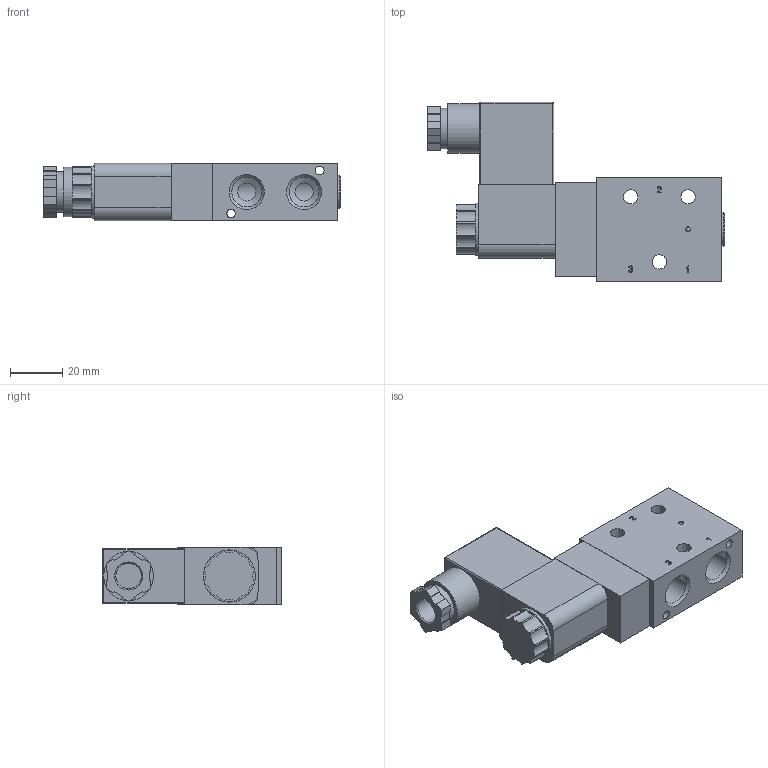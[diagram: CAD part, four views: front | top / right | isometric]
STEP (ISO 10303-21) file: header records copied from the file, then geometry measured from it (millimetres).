
FILE_DESCRIPTION(/* description */ ('Unknown','CAx-IF Rec.Pracs.---Representation and Presentation of Product Manufacturing Information (PMI)---4.0---2014-10-13','CAx-IF Rec.Pracs.---3D Tessellated Geometry---0.4---2014-09-14','2;1'),/* implementation_level */ '2;1');
FILE_NAME(/* name */ 'MH 310 701 G + MA 22 24 DC + ST 22',/* time_stamp */ '2019-05-22T10:04:47+02:00',/* author */ ('Unknown'),/* organization */ ('Unknown'),/* preprocessor_version */ 'ST-DEVELOPER v16.7',/* originating_system */ 'DEX',/* authorisation */ $);
FILE_SCHEMA (('AP242_MANAGED_MODEL_BASED_3D_ENGINEERING_MIM_LF { 1 0 10303 442 20130219 1 4 }'));
Length unit declared in the file: millimetre
Products named in the file (2): MH 310 701 G + MA 22 24 DC + ST 22
Assembly tree (1 placements, depth 2):
  MH 310 701 G + MA 22 24 DC + ST 22
    MH 310 701 G + MA 22 24 DC + ST 22
Bounding box: 114 x 68.7 x 22 mm (x, y, z)
Volume: 86188.3 mm3; surface area: 30445.4 mm2
Topology: 6 solids, 8 shells, 402 faces, 1028 edges, 677 vertices
Faces by surface type: plane 243, cylinder 86, bspline 43, cone 23, sphere 5, torus 2
Full cylindrical faces by diameter (mm): 1.5 x3, 1.6 x1, 1.85 x1, 2.459 x8, 2.5 x2, 3.236 x1, 3.3 x2, 5.5 x3, 5.6 x4, 6 x1, 6.1 x1, 7 x3, 7.3 x1, 8 x1, 8.15 x1, 8.5 x1, 9 x2, 9.15 x1, 9.75 x1, 11 x1, 11.445 x6, 11.6 x1, 12 x1, 12.06 x1, 13 x1, 15.6 x1, 16 x1, 19 x1, 20 x1
Entity records: 15010 total; most frequent: CARTESIAN_POINT 3196, ORIENTED_EDGE 1788, DIRECTION 1709, EDGE_CURVE 894, VERTEX_POINT 640, LINE 589, VECTOR 589, FACE_BOUND 568
